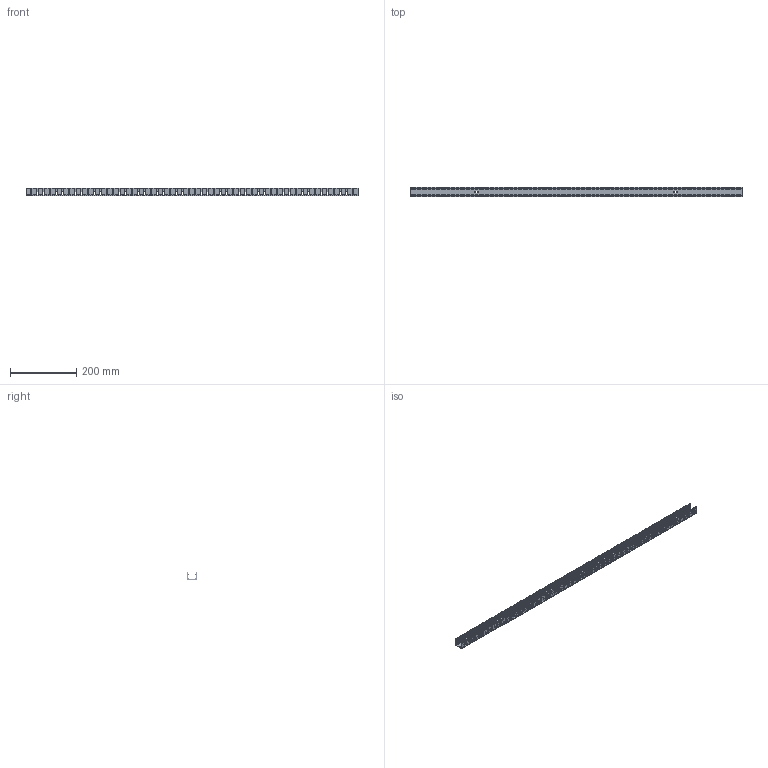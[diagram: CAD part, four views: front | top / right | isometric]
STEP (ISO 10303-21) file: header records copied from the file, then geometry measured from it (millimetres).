
FILE_DESCRIPTION(/* description */ (''),/* implementation_level */ '2;1');
FILE_NAME(/* name */ 'NF_2219_CURVED_PROFILE_TOP_BEND_L1000_R01.step',/* time_stamp */ '2026-07-24T14:41:16+02:00',/* author */ (''),/* organization */ (''),/* preprocessor_version */ 'ST-DEVELOPER v20.1',/* originating_system */ 'Autodesk Translation Framework v15.8.0.0',/* authorisation */ '');
FILE_SCHEMA (('AUTOMOTIVE_DESIGN { 1 0 10303 214 3 1 1 }'));
Products named in the file (1): 2026-07-16-17-53-45-734
Bounding box: 1000 x 27.69 x 23.28 mm (x, y, z)
Volume: 121320.8 mm3; surface area: 223729 mm2
Topology: 3 solids, 3 shells, 3210 faces, 9306 edges, 6204 vertices
Faces by surface type: plane 2246, bspline 534, cylinder 430
Entity records: 143996 total; most frequent: CARTESIAN_POINT 62216, ORIENTED_EDGE 18612, DIRECTION 14452, EDGE_CURVE 9306, LINE 7378, VECTOR 7378, VERTEX_POINT 6204, AXIS2_PLACEMENT_3D 3537
